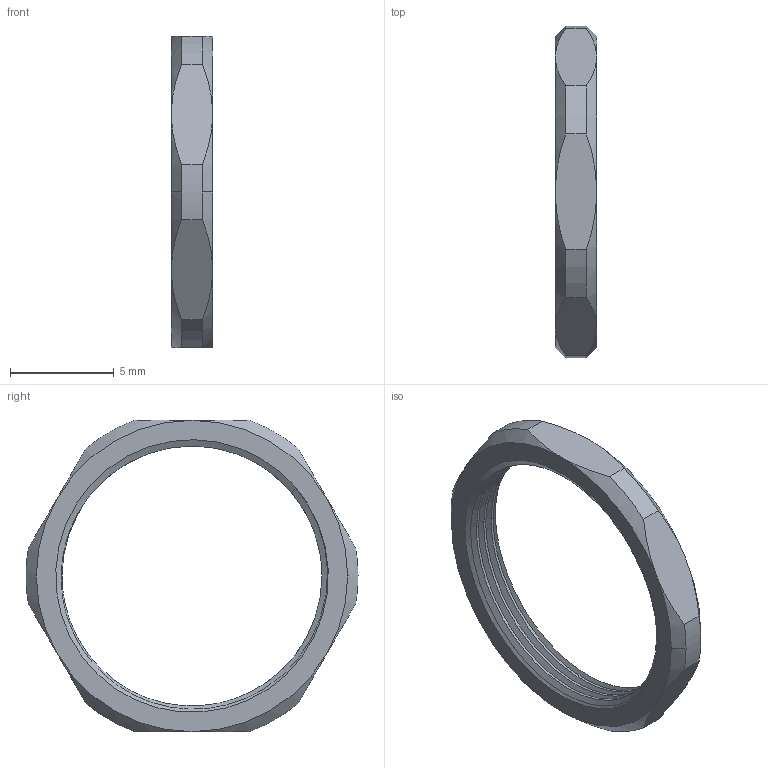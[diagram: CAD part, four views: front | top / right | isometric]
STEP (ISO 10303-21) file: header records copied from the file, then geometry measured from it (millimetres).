
FILE_DESCRIPTION(('Creo Elements/Direct Modeling STEP Export'),'2;1');
FILE_NAME('H20-0017-CL903-00_LN-WS13MBS.stp','2021-10-19T17:53:17',(''),(''),'Creo Elements/Direct Modeling STEP processor for AP214 (Solid Model)','Creo Elements/Direct Modeling 20.3B 05-Dec-2020 (C) Parametric Technology GmbH','');
FILE_SCHEMA(('AUTOMOTIVE_DESIGN { 1 0 10303 214 1 1 1 1 }'));
Length unit declared in the file: millimetre
Products named in the file (1): H20-0017-CL903-00_LN-WS13MBS
Bounding box: 2 x 16 x 15 mm (x, y, z)
Volume: 117.4 mm3; surface area: 332.1 mm2
Topology: 1 solids, 1 shells, 51 faces, 131 edges, 82 vertices
Faces by surface type: cylinder 23, cone 18, plane 8, bspline 2
Entity records: 4119 total; most frequent: CARTESIAN_POINT 3218, ORIENTED_EDGE 262, EDGE_CURVE 131, DIRECTION 84, VERTEX_POINT 82, EDGE_LOOP 53, FACE_OUTER_BOUND 51, ADVANCED_FACE 51
